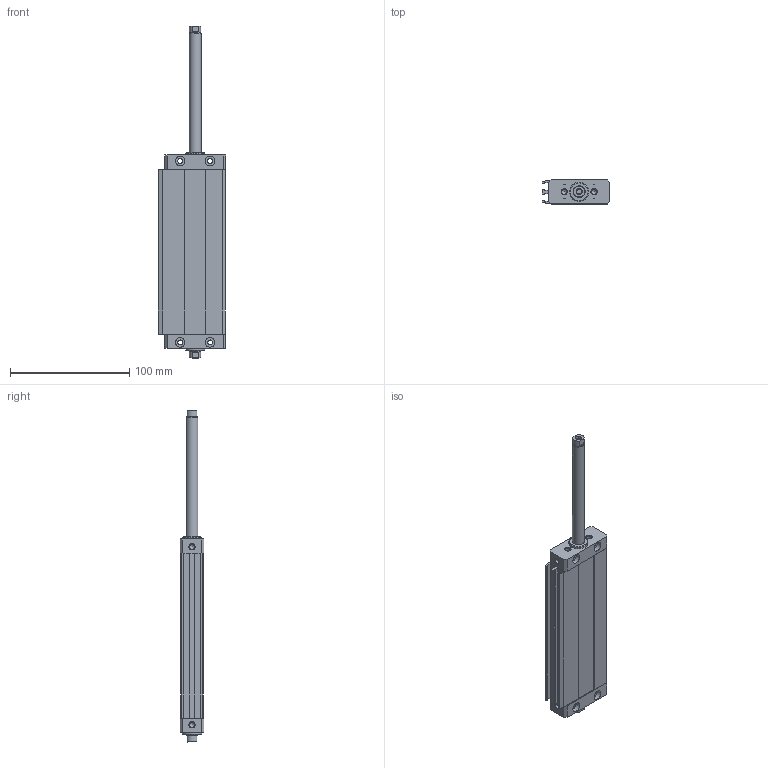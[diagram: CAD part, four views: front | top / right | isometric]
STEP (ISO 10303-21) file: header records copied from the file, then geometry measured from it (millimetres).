
FILE_DESCRIPTION((''),'2;1');
FILE_NAME('I:\Area Tecnica\Disegni\VARIE-3D\Componenti\1370 - CPO\1370_##_0000_03\1370_25_0100_03-01.iam.step','2010-12-16T10:53:05',(''),(''),'Autodesk Inventor 2011','Autodesk Inventor 2011','');
FILE_SCHEMA(('AUTOMOTIVE_DESIGN { 1 0 10303 214 1 1 1 1 }'));
Length unit declared in the file: millimetre
Products named in the file (5): 1370_25_0100_03-01; 1370_05_25_0000; 1370_06_25_0100; 1370_08_25_0000; 1370_3_25_0100
Assembly tree (4 placements, depth 2):
  1370_25_0100_03-01
    1370_05_25_0000
    1370_06_25_0100
    1370_08_25_0000
    1370_3_25_0100
Bounding box: 56.25 x 20 x 278 mm (x, y, z)
Volume: 123031.6 mm3; surface area: 61399.4 mm2
Topology: 4 solids, 4 shells, 158 faces, 378 edges, 238 vertices
Faces by surface type: plane 90, cylinder 48, cone 20
Full cylindrical faces by diameter (mm): 4.2 x22, 5.2 x2, 8 x8, 9.5 x2, 10 x4, 16 x2
Entity records: 4480 total; most frequent: DIRECTION 750, CARTESIAN_POINT 695, ORIENTED_EDGE 608, EDGE_CURVE 304, AXIS2_PLACEMENT_3D 279, EDGE_LOOP 250, VERTEX_POINT 224, VECTOR 192
